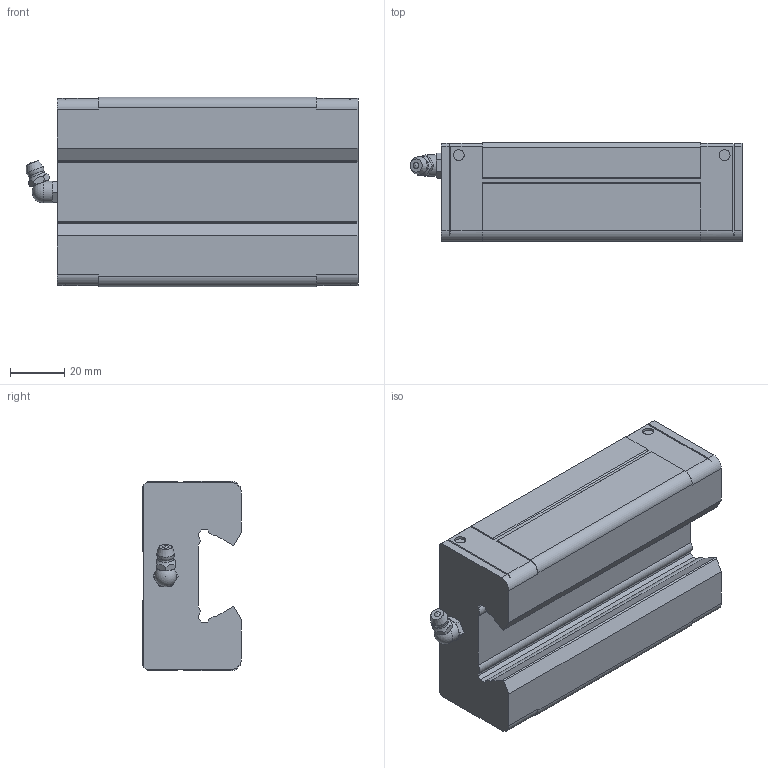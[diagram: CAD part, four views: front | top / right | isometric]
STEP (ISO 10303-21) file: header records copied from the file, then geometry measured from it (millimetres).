
FILE_DESCRIPTION(/* description */ ('STEP AP214'),/* implementation_level */ '2;1');
FILE_NAME(/* name */ 'SSR35XW1SS(GK) BLOCK(1B)',/* time_stamp */ '2023-06-01T10:54:15+02:00',/* author */ ('License CC BY-ND 4.0'),/* organization */ ('CADENAS'),/* preprocessor_version */ 'ST-DEVELOPER v19.3',/* originating_system */ 'PARTsolutions',/* authorisation */ ' ');
FILE_SCHEMA (('AUTOMOTIVE_DESIGN {1 0 10303 214 3 1 1}'));
Length unit declared in the file: millimetre
Products named in the file (3): SSR35XW1SS(GK) BLOCK(1B); SSR35XWSSBGNPJ-20-35; SSR35XWSSB 1Slide20-35
Assembly tree (2 placements, depth 2):
  SSR35XW1SS(GK) BLOCK(1B)
    SSR35XWSSBGNPJ-20-35
    SSR35XWSSB 1Slide20-35
Bounding box: 122.5 x 36.5 x 70 mm (x, y, z)
Volume: 227273.8 mm3; surface area: 34142 mm2
Topology: 2 solids, 2 shells, 143 faces, 369 edges, 235 vertices
Faces by surface type: plane 88, cylinder 28, cone 22, sphere 3, torus 2
Full cylindrical faces by diameter (mm): 4 x4, 4.917 x2, 6 x1, 6.647 x4, 8 x1
Entity records: 4161 total; most frequent: CARTESIAN_POINT 793, DIRECTION 680, ORIENTED_EDGE 642, EDGE_CURVE 321, AXIS2_PLACEMENT_3D 237, VERTEX_POINT 226, LINE 206, VECTOR 206
